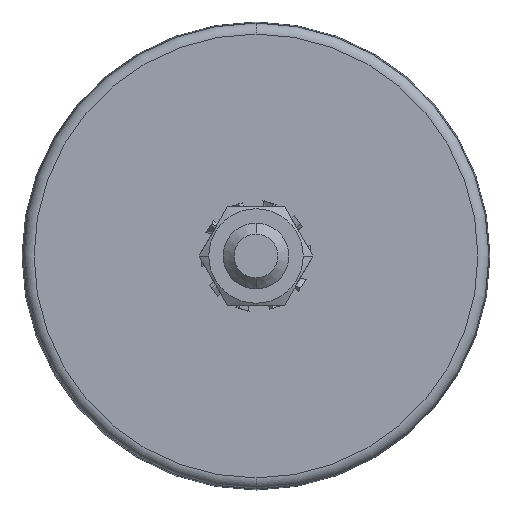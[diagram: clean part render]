
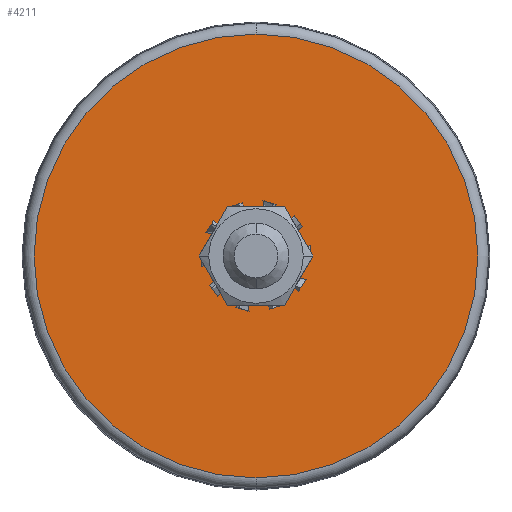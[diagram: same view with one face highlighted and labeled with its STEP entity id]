
A CAD part, front view. The second image highlights one B-rep face of the part: STEP entity #4211.
In plain terms, the highlighted planar face has unit normal (0, -1, 0).
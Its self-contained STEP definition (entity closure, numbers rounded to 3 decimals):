
#41 = ORIENTED_EDGE ( 'NONE', *, *, #3276, .T. ) ;
#163 = AXIS2_PLACEMENT_3D ( 'NONE', #453, #5005, #981 ) ;
#328 = CIRCLE ( 'NONE', #2137, 40.5 ) ;
#453 = CARTESIAN_POINT ( 'NONE',  ( 0., 0., 0. ) ) ;
#538 = VERTEX_POINT ( 'NONE', #676 ) ;
#554 = DIRECTION ( 'NONE',  ( 0., 0., -1. ) ) ;
#676 = CARTESIAN_POINT ( 'NONE',  ( 0., 0., 8. ) ) ;
#785 = CARTESIAN_POINT ( 'NONE',  ( 0., 0., -8. ) ) ;
#791 = ORIENTED_EDGE ( 'NONE', *, *, #6256, .T. ) ;
#861 = CIRCLE ( 'NONE', #7206, 8. ) ;
#927 = EDGE_LOOP ( 'NONE', ( #7113, #41 ) ) ;
#981 = DIRECTION ( 'NONE',  ( 0., 0., -1. ) ) ;
#1069 = PLANE ( 'NONE',  #1890 ) ;
#1599 = CIRCLE ( 'NONE', #163, 40.5 ) ;
#1628 = CARTESIAN_POINT ( 'NONE',  ( 6., 0., 0. ) ) ;
#1890 = AXIS2_PLACEMENT_3D ( 'NONE', #1628, #6349, #554 ) ;
#2080 = DIRECTION ( 'NONE',  ( 0., 0., -1. ) ) ;
#2134 = VERTEX_POINT ( 'NONE', #785 ) ;
#2137 = AXIS2_PLACEMENT_3D ( 'NONE', #6209, #2721, #6769 ) ;
#2424 = CARTESIAN_POINT ( 'NONE',  ( 0., 0., -40.5 ) ) ;
#2490 = DIRECTION ( 'NONE',  ( 0., 1., 0. ) ) ;
#2533 = ORIENTED_EDGE ( 'NONE', *, *, #5621, .T. ) ;
#2721 = DIRECTION ( 'NONE',  ( 0., -1., 0. ) ) ;
#3060 = VERTEX_POINT ( 'NONE', #6226 ) ;
#3204 = AXIS2_PLACEMENT_3D ( 'NONE', #6171, #3258, #2080 ) ;
#3258 = DIRECTION ( 'NONE',  ( 0., 1., 0. ) ) ;
#3276 = EDGE_CURVE ( 'NONE', #3060, #6514, #1599, .T. ) ;
#4211 = ADVANCED_FACE ( 'NONE', ( #5738, #4321 ), #1069, .T. ) ;
#4222 = CARTESIAN_POINT ( 'NONE',  ( 0., 0., 0. ) ) ;
#4321 = FACE_OUTER_BOUND ( 'NONE', #927, .T. ) ;
#5005 = DIRECTION ( 'NONE',  ( 0., -1., 0. ) ) ;
#5500 = EDGE_LOOP ( 'NONE', ( #791, #2533 ) ) ;
#5556 = CIRCLE ( 'NONE', #3204, 8. ) ;
#5621 = EDGE_CURVE ( 'NONE', #538, #2134, #861, .T. ) ;
#5738 = FACE_BOUND ( 'NONE', #5500, .T. ) ;
#6171 = CARTESIAN_POINT ( 'NONE',  ( 0., 0., 0. ) ) ;
#6209 = CARTESIAN_POINT ( 'NONE',  ( 0., 0., 0. ) ) ;
#6226 = CARTESIAN_POINT ( 'NONE',  ( 0., 0., 40.5 ) ) ;
#6256 = EDGE_CURVE ( 'NONE', #2134, #538, #5556, .T. ) ;
#6349 = DIRECTION ( 'NONE',  ( 0., -1., 0. ) ) ;
#6514 = VERTEX_POINT ( 'NONE', #2424 ) ;
#6526 = DIRECTION ( 'NONE',  ( 0., 0., -1. ) ) ;
#6769 = DIRECTION ( 'NONE',  ( 0., 0., -1. ) ) ;
#6994 = EDGE_CURVE ( 'NONE', #6514, #3060, #328, .T. ) ;
#7113 = ORIENTED_EDGE ( 'NONE', *, *, #6994, .T. ) ;
#7206 = AXIS2_PLACEMENT_3D ( 'NONE', #4222, #2490, #6526 ) ;
